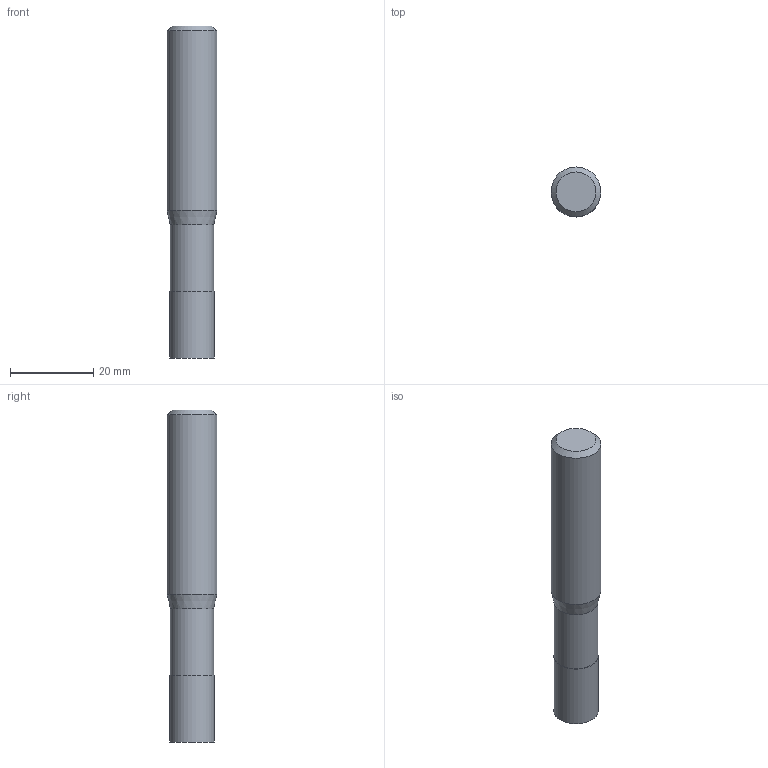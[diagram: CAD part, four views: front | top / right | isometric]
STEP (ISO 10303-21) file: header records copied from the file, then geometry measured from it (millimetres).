
FILE_DESCRIPTION((''),'2;1');
FILE_NAME('C:\Users\nsx150\AppData\Local\Temp\Mastercam 2021\EUJSUNXURU\TEMP.step','2021-04-22T10:30:08',(''),(''),'STEP Write','Mastercam 2021 ... CNC Software, Inc.','');
FILE_SCHEMA(('AUTOMOTIVE_DESIGN'));
Length unit declared in the file: millimetre
Products named in the file (1): None
Bounding box: 12 x 12 x 80 mm (x, y, z)
Volume: 8177.4 mm3; surface area: 3220.4 mm2
Topology: 2 solids, 2 shells, 9 faces, 12 edges, 7 vertices
Faces by surface type: plane 4, cylinder 3, cone 2
Full cylindrical faces by diameter (mm): 10.5 x1, 10.7 x1, 12 x1
Entity records: 211 total; most frequent: DIRECTION 36, CARTESIAN_POINT 25, AXIS2_PLACEMENT_3D 18, ORIENTED_EDGE 14, EDGE_LOOP 14, STYLED_ITEM 12, ADVANCED_FACE 9, FACE_BOUND 8
